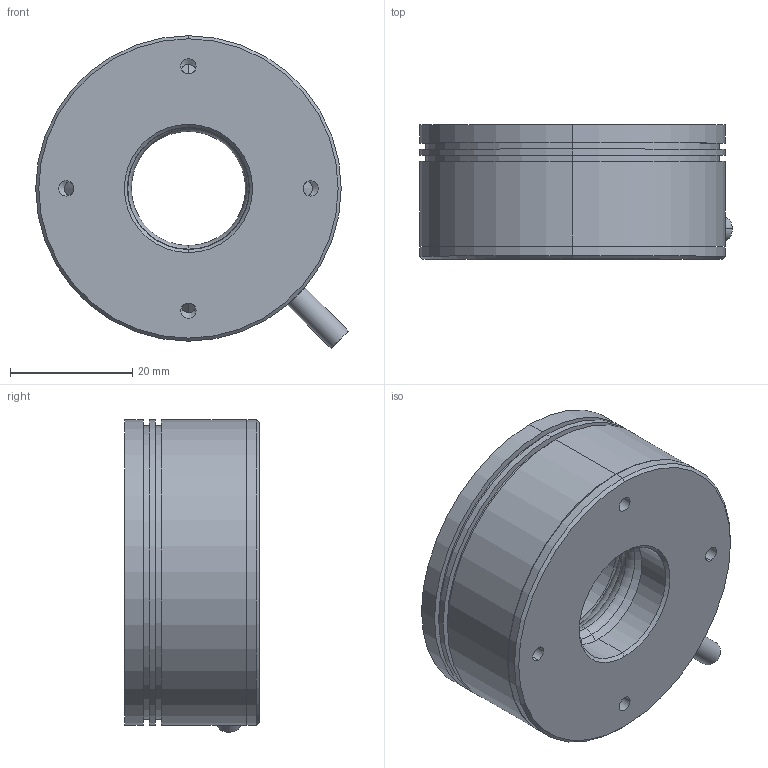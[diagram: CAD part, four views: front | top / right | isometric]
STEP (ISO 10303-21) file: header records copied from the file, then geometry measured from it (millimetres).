
FILE_DESCRIPTION (( 'STEP AP203' ), '1' );
FILE_NAME ('RI5045-W.STEP', '2021-10-08T07:02:26', ( 'Windows 蚚誧' ), ( 'Microsoft' ), 'SwSTEP 2.0', 'SolidWorks 2016', '' );
FILE_SCHEMA (( 'CONFIG_CONTROL_DESIGN' ));
Length unit declared in the file: millimetre
Products named in the file (1): RI5045-W
Bounding box: 51.16 x 22 x 51.16 mm (x, y, z)
Volume: 24565.8 mm3; surface area: 22040.6 mm2
Topology: 3 solids, 3 shells, 114 faces, 246 edges, 144 vertices
Faces by surface type: cone 48, cylinder 36, torus 16, plane 14
Entity records: 3359 total; most frequent: CARTESIAN_POINT 715, DIRECTION 596, ORIENTED_EDGE 492, AXIS2_PLACEMENT_3D 257, EDGE_CURVE 246, VERTEX_POINT 144, CIRCLE 142, EDGE_LOOP 134
